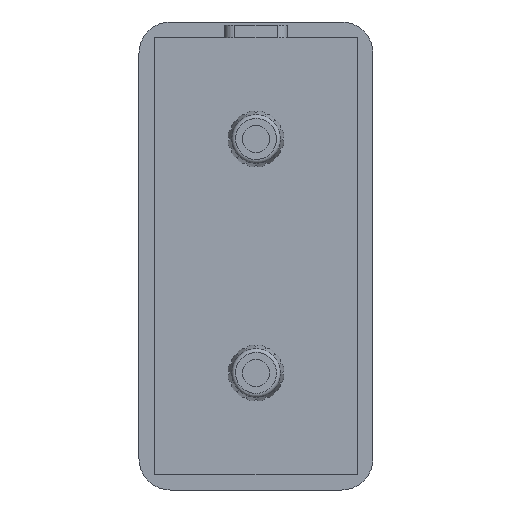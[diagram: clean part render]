
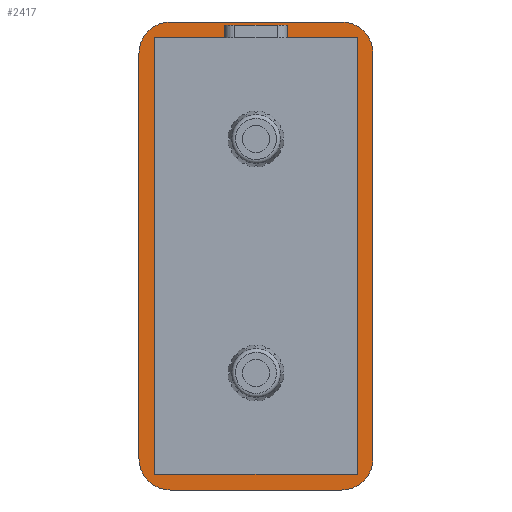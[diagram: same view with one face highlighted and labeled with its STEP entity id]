
A CAD part, front view. The second image highlights one B-rep face of the part: STEP entity #2417.
In plain terms, the highlighted planar face has unit normal (0, -1, 0).
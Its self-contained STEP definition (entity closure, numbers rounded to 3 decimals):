
#17=FACE_BOUND('',#726,.T.);
#29=PLANE('',#2643);
#178=LINE('',#4648,#386);
#181=LINE('',#4654,#389);
#183=LINE('',#4658,#391);
#187=LINE('',#4669,#395);
#188=LINE('',#4671,#396);
#193=LINE('',#4685,#401);
#194=LINE('',#4689,#402);
#195=LINE('',#4693,#403);
#196=LINE('',#4696,#404);
#197=LINE('',#4698,#405);
#198=LINE('',#4700,#406);
#199=LINE('',#4701,#407);
#386=VECTOR('',#3026,1000.);
#389=VECTOR('',#3031,1000.);
#391=VECTOR('',#3033,1000.);
#395=VECTOR('',#3043,1000.);
#396=VECTOR('',#3046,1000.);
#401=VECTOR('',#3063,1000.);
#402=VECTOR('',#3066,1000.);
#403=VECTOR('',#3069,1000.);
#404=VECTOR('',#3072,1000.);
#405=VECTOR('',#3073,1000.);
#406=VECTOR('',#3074,1000.);
#407=VECTOR('',#3075,1000.);
#588=FACE_OUTER_BOUND('',#725,.T.);
#725=EDGE_LOOP('',(#1912,#1913,#1914,#1915,#1916,#1917,#1918,#1919));
#726=EDGE_LOOP('',(#1920,#1921,#1922,#1923,#1924,#1925,#1926,#1927));
#925=CIRCLE('',#2644,4.);
#926=CIRCLE('',#2645,4.);
#927=CIRCLE('',#2646,4.);
#928=CIRCLE('',#2647,4.);
#1224=VERTEX_POINT('',#4645);
#1225=VERTEX_POINT('',#4647);
#1226=VERTEX_POINT('',#4651);
#1228=VERTEX_POINT('',#4655);
#1229=VERTEX_POINT('',#4657);
#1233=VERTEX_POINT('',#4667);
#1234=VERTEX_POINT('',#4681);
#1235=VERTEX_POINT('',#4682);
#1236=VERTEX_POINT('',#4684);
#1237=VERTEX_POINT('',#4686);
#1238=VERTEX_POINT('',#4688);
#1239=VERTEX_POINT('',#4690);
#1240=VERTEX_POINT('',#4692);
#1241=VERTEX_POINT('',#4694);
#1242=VERTEX_POINT('',#4697);
#1243=VERTEX_POINT('',#4699);
#1485=EDGE_CURVE('',#1225,#1224,#178,.T.);
#1488=EDGE_CURVE('',#1224,#1226,#181,.T.);
#1490=EDGE_CURVE('',#1229,#1228,#183,.T.);
#1496=EDGE_CURVE('',#1228,#1233,#187,.T.);
#1497=EDGE_CURVE('',#1233,#1225,#188,.T.);
#1502=EDGE_CURVE('',#1234,#1235,#925,.T.);
#1503=EDGE_CURVE('',#1236,#1234,#193,.T.);
#1504=EDGE_CURVE('',#1237,#1236,#926,.T.);
#1505=EDGE_CURVE('',#1238,#1237,#194,.T.);
#1506=EDGE_CURVE('',#1239,#1238,#927,.T.);
#1507=EDGE_CURVE('',#1240,#1239,#195,.T.);
#1508=EDGE_CURVE('',#1241,#1240,#928,.T.);
#1509=EDGE_CURVE('',#1235,#1241,#196,.T.);
#1510=EDGE_CURVE('',#1229,#1242,#197,.T.);
#1511=EDGE_CURVE('',#1243,#1226,#198,.T.);
#1512=EDGE_CURVE('',#1242,#1243,#199,.T.);
#1912=ORIENTED_EDGE('',*,*,#1502,.F.);
#1913=ORIENTED_EDGE('',*,*,#1503,.F.);
#1914=ORIENTED_EDGE('',*,*,#1504,.F.);
#1915=ORIENTED_EDGE('',*,*,#1505,.F.);
#1916=ORIENTED_EDGE('',*,*,#1506,.F.);
#1917=ORIENTED_EDGE('',*,*,#1507,.F.);
#1918=ORIENTED_EDGE('',*,*,#1508,.F.);
#1919=ORIENTED_EDGE('',*,*,#1509,.F.);
#1920=ORIENTED_EDGE('',*,*,#1510,.F.);
#1921=ORIENTED_EDGE('',*,*,#1490,.T.);
#1922=ORIENTED_EDGE('',*,*,#1496,.T.);
#1923=ORIENTED_EDGE('',*,*,#1497,.T.);
#1924=ORIENTED_EDGE('',*,*,#1485,.T.);
#1925=ORIENTED_EDGE('',*,*,#1488,.T.);
#1926=ORIENTED_EDGE('',*,*,#1511,.F.);
#1927=ORIENTED_EDGE('',*,*,#1512,.F.);
#2417=ADVANCED_FACE('',(#588,#17),#29,.F.);
#2643=AXIS2_PLACEMENT_3D('',#4680,#3059,#3060);
#2644=AXIS2_PLACEMENT_3D('',#4683,#3061,#3062);
#2645=AXIS2_PLACEMENT_3D('',#4687,#3064,#3065);
#2646=AXIS2_PLACEMENT_3D('',#4691,#3067,#3068);
#2647=AXIS2_PLACEMENT_3D('',#4695,#3070,#3071);
#3026=DIRECTION('',(0.,0.,1.));
#3031=DIRECTION('',(1.,0.,0.));
#3033=DIRECTION('',(1.,0.,0.));
#3043=DIRECTION('',(0.,0.,-1.));
#3046=DIRECTION('',(-1.,0.,0.));
#3059=DIRECTION('center_axis',(0.,1.,0.));
#3060=DIRECTION('ref_axis',(0.,0.,1.));
#3061=DIRECTION('center_axis',(0.,1.,0.));
#3062=DIRECTION('ref_axis',(0.,0.,-1.));
#3063=DIRECTION('',(0.,0.,1.));
#3064=DIRECTION('center_axis',(0.,1.,0.));
#3065=DIRECTION('ref_axis',(0.,0.,-1.));
#3066=DIRECTION('',(-1.,0.,0.));
#3067=DIRECTION('center_axis',(0.,1.,0.));
#3068=DIRECTION('ref_axis',(0.,0.,-1.));
#3069=DIRECTION('',(0.,0.,-1.));
#3070=DIRECTION('center_axis',(0.,1.,0.));
#3071=DIRECTION('ref_axis',(0.,0.,-1.));
#3072=DIRECTION('',(1.,0.,0.));
#3073=DIRECTION('',(0.,0.,1.));
#3074=DIRECTION('',(0.,0.,-1.));
#3075=DIRECTION('',(-1.,0.,0.));
#4645=CARTESIAN_POINT('',(-13.,0.,28.));
#4647=CARTESIAN_POINT('',(-13.,0.,-28.));
#4648=CARTESIAN_POINT('',(-13.,0.,28.));
#4651=CARTESIAN_POINT('',(-4.,0.,28.));
#4654=CARTESIAN_POINT('',(13.,0.,28.));
#4655=CARTESIAN_POINT('',(13.,0.,28.));
#4657=CARTESIAN_POINT('',(4.,0.,28.));
#4658=CARTESIAN_POINT('',(13.,0.,28.));
#4667=CARTESIAN_POINT('',(13.,0.,-28.));
#4669=CARTESIAN_POINT('',(13.,0.,-28.));
#4671=CARTESIAN_POINT('',(-13.,0.,-28.));
#4680=CARTESIAN_POINT('Origin',(0.,0.,0.));
#4681=CARTESIAN_POINT('',(-15.,0.,26.));
#4682=CARTESIAN_POINT('',(-11.,0.,30.));
#4683=CARTESIAN_POINT('Origin',(-11.,0.,26.));
#4684=CARTESIAN_POINT('',(-15.,0.,-26.));
#4685=CARTESIAN_POINT('',(-15.,0.,0.));
#4686=CARTESIAN_POINT('',(-11.,0.,-30.));
#4687=CARTESIAN_POINT('Origin',(-11.,0.,-26.));
#4688=CARTESIAN_POINT('',(11.,0.,-30.));
#4689=CARTESIAN_POINT('',(0.,0.,-30.));
#4690=CARTESIAN_POINT('',(15.,0.,-26.));
#4691=CARTESIAN_POINT('Origin',(11.,0.,-26.));
#4692=CARTESIAN_POINT('',(15.,0.,26.));
#4693=CARTESIAN_POINT('',(15.,0.,0.));
#4694=CARTESIAN_POINT('',(11.,0.,30.));
#4695=CARTESIAN_POINT('Origin',(11.,0.,26.));
#4696=CARTESIAN_POINT('',(0.,0.,30.));
#4697=CARTESIAN_POINT('',(4.,0.,29.6));
#4698=CARTESIAN_POINT('',(4.,0.,0.));
#4699=CARTESIAN_POINT('',(-4.,0.,29.6));
#4700=CARTESIAN_POINT('',(-4.,0.,0.));
#4701=CARTESIAN_POINT('',(0.,0.,29.6));
